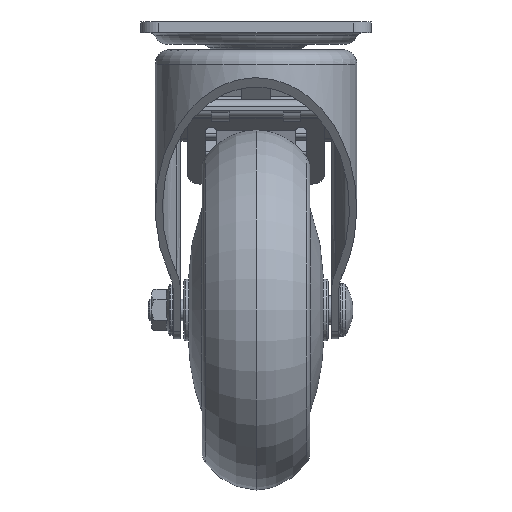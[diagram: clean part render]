
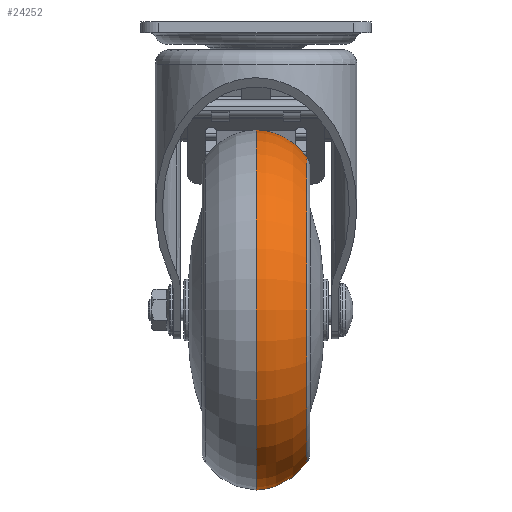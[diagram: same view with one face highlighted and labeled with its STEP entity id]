
A CAD part, left-side view. The second image highlights one B-rep face of the part: STEP entity #24252.
In plain terms, the highlighted toroidal (fillet/blend) face has major radius 32.404 mm and minor radius 17.6 mm.
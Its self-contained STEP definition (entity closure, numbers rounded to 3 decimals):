
#5762=TOROIDAL_SURFACE('',#25729,32.405,17.6);
#6021=FACE_BOUND('',#7739,.T.);
#6280=FACE_OUTER_BOUND('',#7738,.T.);
#7738=EDGE_LOOP('',(#16265));
#7739=EDGE_LOOP('',(#16266));
#9249=CIRCLE('',#25611,50.);
#9312=CIRCLE('',#25728,42.343);
#10060=VERTEX_POINT('',#34993);
#10123=VERTEX_POINT('',#35263);
#12489=EDGE_CURVE('',#10060,#10060,#9249,.T.);
#12555=EDGE_CURVE('',#10123,#10123,#9312,.T.);
#16265=ORIENTED_EDGE('',*,*,#12555,.T.);
#16266=ORIENTED_EDGE('',*,*,#12489,.F.);
#24252=ADVANCED_FACE('',(#6280,#6021),#5762,.T.);
#25611=AXIS2_PLACEMENT_3D('',#34994,#27877,#27878);
#25728=AXIS2_PLACEMENT_3D('',#35264,#28111,#28112);
#25729=AXIS2_PLACEMENT_3D('',#35265,#28113,#28114);
#27877=DIRECTION('center_axis',(0.,1.,0.));
#27878=DIRECTION('ref_axis',(1.,0.,0.));
#28111=DIRECTION('center_axis',(0.,1.,0.));
#28112=DIRECTION('ref_axis',(1.,0.,0.));
#28113=DIRECTION('center_axis',(0.,1.,0.));
#28114=DIRECTION('ref_axis',(0.,0.,1.));
#34993=CARTESIAN_POINT('',(28.5,0.,25.1));
#34994=CARTESIAN_POINT('Origin',(28.5,0.,-24.9));
#35263=CARTESIAN_POINT('',(28.5,-14.127,17.443));
#35264=CARTESIAN_POINT('Origin',(28.5,-14.127,-24.9));
#35265=CARTESIAN_POINT('Origin',(28.5,0.399,-24.9));
